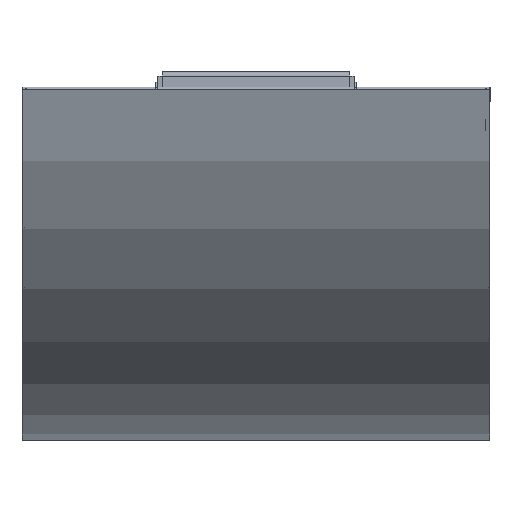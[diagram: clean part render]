
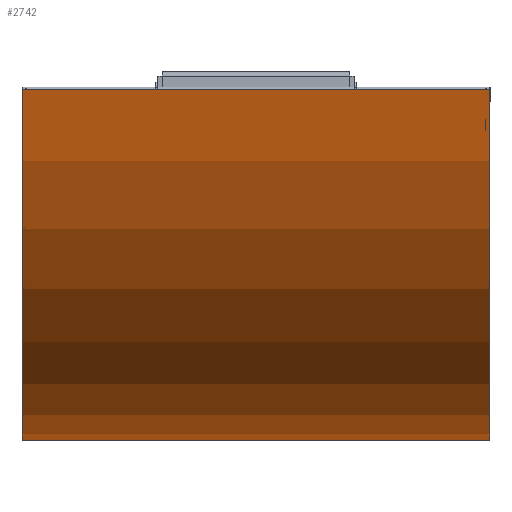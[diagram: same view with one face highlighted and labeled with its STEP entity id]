
A CAD part, left-side view. The second image highlights one B-rep face of the part: STEP entity #2742.
In plain terms, the highlighted cylindrical face has radius 189.083 mm (diameter 378.167 mm), a partial arc.
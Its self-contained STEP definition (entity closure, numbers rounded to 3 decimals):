
#331=FACE_OUTER_BOUND('',#501,.T.);
#501=EDGE_LOOP('',(#2519,#2520,#2521,#2522));
#630=CIRCLE('',#3036,189.083);
#631=CIRCLE('',#3037,189.083);
#882=LINE('',#5206,#1138);
#885=LINE('',#5217,#1141);
#1138=VECTOR('',#3844,304.8);
#1141=VECTOR('',#3855,304.8);
#1390=VERTEX_POINT('',#5200);
#1392=VERTEX_POINT('',#5204);
#1395=VERTEX_POINT('',#5214);
#1396=VERTEX_POINT('',#5216);
#1774=EDGE_CURVE('',#1390,#1392,#882,.T.);
#1779=EDGE_CURVE('',#1396,#1395,#885,.T.);
#1781=EDGE_CURVE('',#1390,#1395,#630,.T.);
#1782=EDGE_CURVE('',#1396,#1392,#631,.T.);
#2519=ORIENTED_EDGE('',*,*,#1781,.F.);
#2520=ORIENTED_EDGE('',*,*,#1774,.T.);
#2521=ORIENTED_EDGE('',*,*,#1782,.F.);
#2522=ORIENTED_EDGE('',*,*,#1779,.T.);
#2590=CYLINDRICAL_SURFACE('',#3035,189.083);
#2742=ADVANCED_FACE('',(#331),#2590,.T.);
#3035=AXIS2_PLACEMENT_3D('',#5219,#3857,#3858);
#3036=AXIS2_PLACEMENT_3D('',#5220,#3859,#3860);
#3037=AXIS2_PLACEMENT_3D('',#5221,#3861,#3862);
#3844=DIRECTION('',(-1.,0.,0.));
#3855=DIRECTION('',(1.,0.,0.));
#3857=DIRECTION('center_axis',(1.,0.,0.));
#3858=DIRECTION('ref_axis',(0.,-1.,0.));
#3859=DIRECTION('center_axis',(1.,0.,0.));
#3860=DIRECTION('ref_axis',(0.,-1.,0.));
#3861=DIRECTION('center_axis',(-1.,0.,0.));
#3862=DIRECTION('ref_axis',(0.,-1.,0.));
#5200=CARTESIAN_POINT('',(200.,-185.,0.));
#5204=CARTESIAN_POINT('',(0.,-185.,0.));
#5206=CARTESIAN_POINT('',(200.,-185.,0.));
#5214=CARTESIAN_POINT('',(200.,185.,0.));
#5216=CARTESIAN_POINT('',(0.,185.,0.));
#5217=CARTESIAN_POINT('',(0.,185.,0.));
#5219=CARTESIAN_POINT('Origin',(0.,0.,39.083));
#5220=CARTESIAN_POINT('Origin',(200.,0.,39.083));
#5221=CARTESIAN_POINT('Origin',(0.,0.,39.083));
